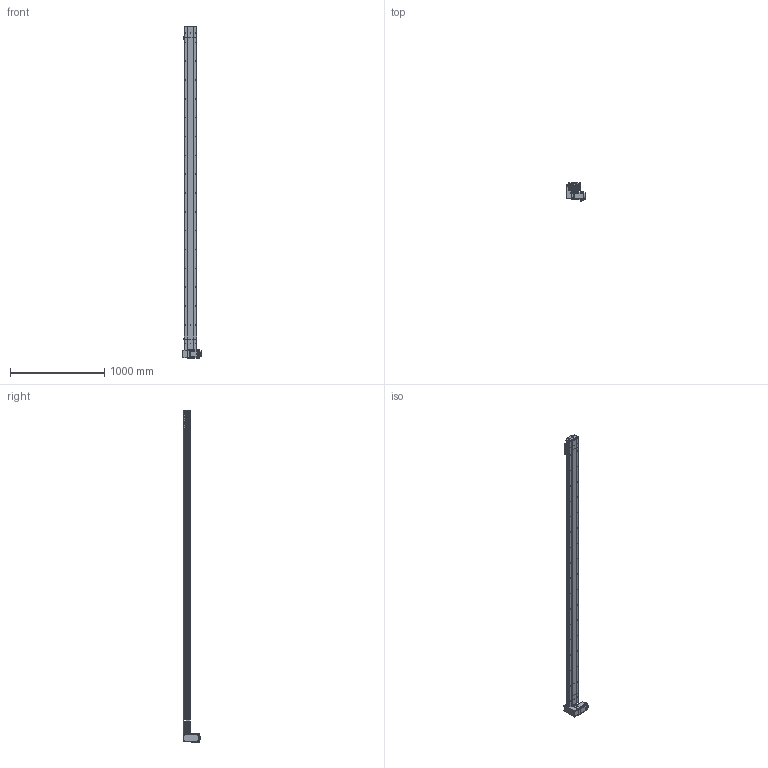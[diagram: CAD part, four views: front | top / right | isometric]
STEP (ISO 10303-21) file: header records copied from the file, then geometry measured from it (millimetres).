
FILE_DESCRIPTION (( 'STEP AP214' ), '1' );
FILE_NAME ('D14 TBH RU S3200.STEP', '2010-06-29T14:49:57', ( 'Conseil Régional Haute-Normandie' ), ( 'Conseil Régional Haute-Normandie' ), 'SwSTEP 2.0', 'SolidWorks 2010', '' );
FILE_SCHEMA (( 'AUTOMOTIVE_DESIGN' ));
Length unit declared in the file: millimetre
Products named in the file (39): Rail + couroie D14 Course 3200 ; couvercle D14 course L3200_Default; Tail D14B_Default; poulie tail_Default; Couroie_Default; corpl 3200_Default; corpl tail D14_Default; plaque de  bout tail D14_Default; tete d''axe haut D14; vis M5 L16_Default; couvercle D14_Default; Arbre+rail tail D14; couroie 2_Default; D14 TB H RU_Default; corp head D14_Default; vis M5 L12_Default; corps 90BLDC100A-640; codeur 90BLDC100-640; Conecteur2_Default; guide D14; Chariot D14; chariot D14B_Default; Conecteur_Default; Plaque racord D14_Default; Cache_Default; vis M5 L8 90°_Default; Cache arbre_Default; renvoi RH_Default; couvercle D14 head_Default; Moteur motionking 90BLDC100A-640; avant 90BLDC100A-640; vis M5 L5_Default; D14 TBH RU S3200; plaque de  bout head D14 RU_Default; D14 couroie L3200_Default; Vis M5 L16-2_Default; Cvis M5 L70_Default; poulie head_Default; Arbre+rail head D14
Assembly tree (68 placements, depth 4):
  D14 TBH RU S3200
    D14 TB H RU_Default
      Cvis M5 L70_Default  x4
      vis M5 L12_Default  x12
      plaque de  bout head D14 RU_Default
      Plaque racord D14_Default
      Arbre+rail head D14
      Cache arbre_Default
      renvoi RH_Default
      vis M5 L5_Default  x2
      couvercle D14 head_Default
      Cache_Default  x2
      Vis M5 L16-2_Default  x4
      poulie head_Default
      couroie 2_Default
      corp head D14_Default
      Moteur motionking 90BLDC100A-640
        corps 90BLDC100A-640
        Conecteur2_Default
        Conecteur_Default
        avant 90BLDC100A-640
        codeur 90BLDC100-640
    chariot D14B_Default
      vis M5 L12_Default  x4
      Chariot D14
      guide D14  x2
    D14 couroie L3200_Default
      Rail + couroie D14 Course 3200 
      couvercle D14 course L3200_Default
      corpl 3200_Default
    Tail D14B_Default
      vis M5 L12_Default  x4
      vis M5 L8 90°_Default  x2
      tete d''axe haut D14
      plaque de  bout tail D14_Default
      vis M5 L16_Default  x2
      poulie tail_Default
      Arbre+rail tail D14
      Couroie_Default
      couvercle D14_Default
      corpl tail D14_Default
Bounding box: 207.2 x 191.1 x 3525.75 mm (x, y, z)
Volume: 12767949.8 mm3; surface area: 4708902.5 mm2
Topology: 92 solids, 92 shells, 2789 faces, 6791 edges, 4386 vertices
Faces by surface type: plane 1629, cylinder 847, bspline 136, torus 89, cone 84, sphere 4
Entity records: 83852 total; most frequent: CARTESIAN_POINT 24305, ORIENTED_EDGE 10442, DIRECTION 10416, EDGE_CURVE 5221, AXIS2_PLACEMENT_3D 3511, VERTEX_POINT 3436, LINE 3394, VECTOR 3394
